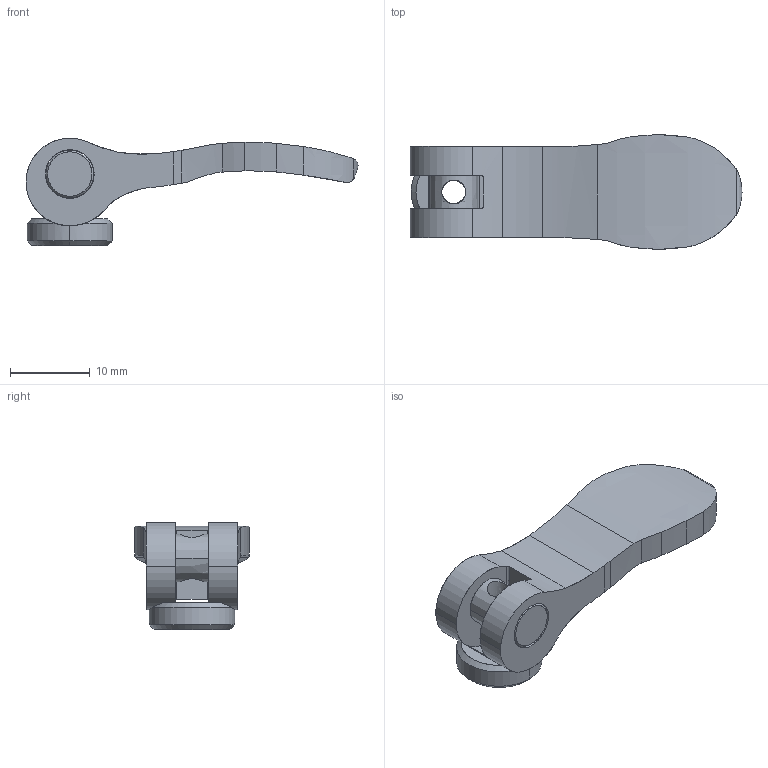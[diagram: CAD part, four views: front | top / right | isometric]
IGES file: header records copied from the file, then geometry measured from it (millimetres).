
Start section: SolidWorks IGES file using analytic representation for surfaces
Global section: file name: Y:\5.更新分\2024年対応\1001_KCL\データ\KCLS03\KCLS03.IGS; native system: SolidWorks 2022; preprocessor: SolidWorks 2022; author: ImaoCorp; date: 240829.105348; units: millimetre
Bounding box: 41.7 x 14.4 x 13.49 mm (x, y, z)
Surface area: 2249.4 mm2 (no closed solid volume)
Topology: 0 solids, 0 shells, 71 faces, 1099 edges, 1099 vertices
Faces by surface type: revolution 60, bspline 11
